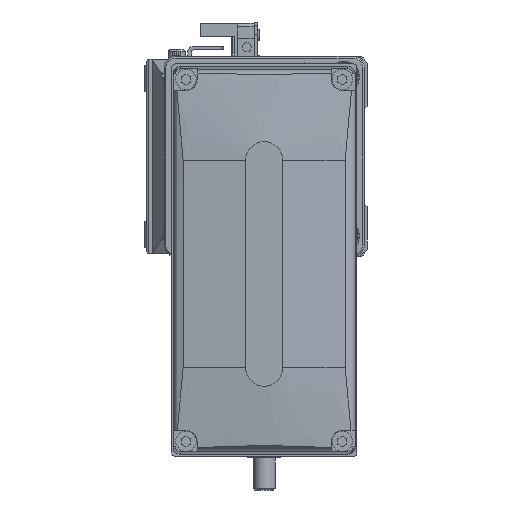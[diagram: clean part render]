
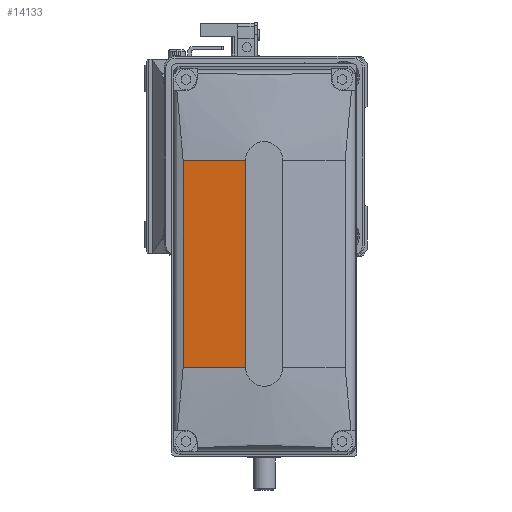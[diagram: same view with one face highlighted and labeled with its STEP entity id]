
A CAD part, left-side view. The second image highlights one B-rep face of the part: STEP entity #14133.
In plain terms, the highlighted planar face has unit normal (-0.996, 0.087, 0) as drawn and (-0.996, 0, -0.087) by its records, which use the part's own axes.
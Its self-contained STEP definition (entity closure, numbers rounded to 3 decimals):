
#1181 = VERTEX_POINT ( 'NONE', #18661 ) ;
#1433 = LINE ( 'NONE', #35526, #19249 ) ;
#1784 = ORIENTED_EDGE ( 'NONE', *, *, #20131, .T. ) ;
#2381 = EDGE_LOOP ( 'NONE', ( #19072, #9276, #2975, #1784 ) ) ;
#2961 = DIRECTION ( 'NONE',  ( -0.087, 0., 0.996 ) ) ;
#2975 = ORIENTED_EDGE ( 'NONE', *, *, #29851, .F. ) ;
#6178 = DIRECTION ( 'NONE',  ( 0., 1., 0. ) ) ;
#6533 = VERTEX_POINT ( 'NONE', #15604 ) ;
#7213 = PLANE ( 'NONE',  #8861 ) ;
#8861 = AXIS2_PLACEMENT_3D ( 'NONE', #28167, #10247, #16523 ) ;
#9276 = ORIENTED_EDGE ( 'NONE', *, *, #36481, .F. ) ;
#10051 = VERTEX_POINT ( 'NONE', #15826 ) ;
#10247 = DIRECTION ( 'NONE',  ( -0.996, 0., -0.087 ) ) ;
#10408 = EDGE_CURVE ( 'NONE', #21746, #6533, #13339, .T. ) ;
#11838 = LINE ( 'NONE', #33459, #24953 ) ;
#13070 = DIRECTION ( 'NONE',  ( 0., 1., 0. ) ) ;
#13339 = LINE ( 'NONE', #15033, #22268 ) ;
#13810 = LINE ( 'NONE', #20963, #16176 ) ;
#14133 = ADVANCED_FACE ( 'NONE', ( #23406 ), #7213, .T. ) ;
#15033 = CARTESIAN_POINT ( 'NONE',  ( 43606.406, 28., -499000. ) ) ;
#15604 = CARTESIAN_POINT ( 'NONE',  ( -50., 28., -5. ) ) ;
#15826 = CARTESIAN_POINT ( 'NONE',  ( -50., -28., -5. ) ) ;
#16176 = VECTOR ( 'NONE', #6178, 1000. ) ;
#16523 = DIRECTION ( 'NONE',  ( -0.087, 0., 0.996 ) ) ;
#18091 = CARTESIAN_POINT ( 'NONE',  ( -48.525, 28., -21.861 ) ) ;
#18661 = CARTESIAN_POINT ( 'NONE',  ( -48.525, -28., -21.861 ) ) ;
#19072 = ORIENTED_EDGE ( 'NONE', *, *, #10408, .F. ) ;
#19249 = VECTOR ( 'NONE', #34753, 1000. ) ;
#20131 = EDGE_CURVE ( 'NONE', #10051, #6533, #11838, .T. ) ;
#20963 = CARTESIAN_POINT ( 'NONE',  ( -48.525, 128., -21.861 ) ) ;
#21746 = VERTEX_POINT ( 'NONE', #18091 ) ;
#22268 = VECTOR ( 'NONE', #2961, 1000. ) ;
#23406 = FACE_OUTER_BOUND ( 'NONE', #2381, .T. ) ;
#24953 = VECTOR ( 'NONE', #13070, 1000. ) ;
#28167 = CARTESIAN_POINT ( 'NONE',  ( -50., 128., -5. ) ) ;
#29851 = EDGE_CURVE ( 'NONE', #10051, #1181, #1433, .T. ) ;
#33459 = CARTESIAN_POINT ( 'NONE',  ( -50., 128., -5. ) ) ;
#34753 = DIRECTION ( 'NONE',  ( 0.087, 0., -0.996 ) ) ;
#35526 = CARTESIAN_POINT ( 'NONE',  ( 43606.406, -28., -499000. ) ) ;
#36481 = EDGE_CURVE ( 'NONE', #1181, #21746, #13810, .T. ) ;
